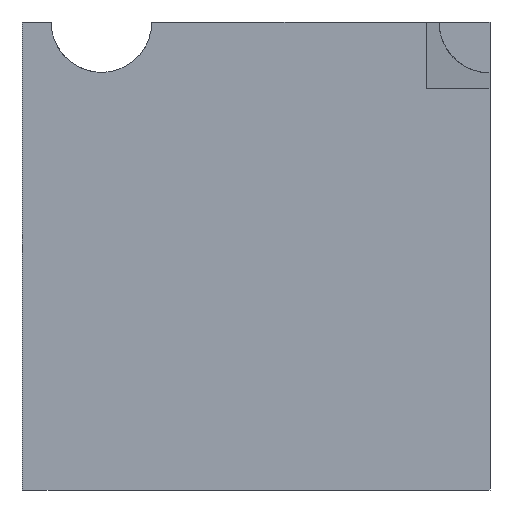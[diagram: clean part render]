
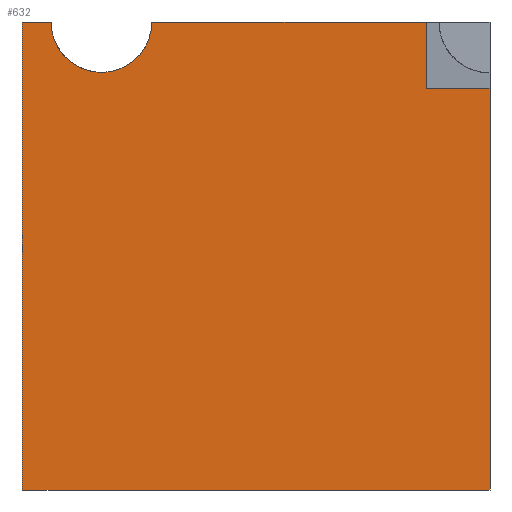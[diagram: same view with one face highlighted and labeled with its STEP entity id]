
A CAD part, front view. The second image highlights one B-rep face of the part: STEP entity #632.
In plain terms, the highlighted planar face has unit normal (0, -1, 0).
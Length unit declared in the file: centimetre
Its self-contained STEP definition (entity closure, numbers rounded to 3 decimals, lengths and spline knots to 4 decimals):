
#9 = CARTESIAN_POINT ( 'NONE',  ( 0., 0., 1000. ) ) ;
#23 = CIRCLE ( 'NONE', #227, 107.6685 ) ;
#25 = CARTESIAN_POINT ( 'NONE',  ( 863.5882, 0., 857.978 ) ) ;
#32 = EDGE_CURVE ( 'NONE', #599, #165, #503, .T. ) ;
#76 = VECTOR ( 'NONE', #106, 100. ) ;
#105 = LINE ( 'NONE', #25, #1091 ) ;
#106 = DIRECTION ( 'NONE',  ( 1., 0., 0. ) ) ;
#155 = VERTEX_POINT ( 'NONE', #523 ) ;
#160 = EDGE_CURVE ( 'NONE', #238, #885, #629, .T. ) ;
#165 = VERTEX_POINT ( 'NONE', #179 ) ;
#179 = CARTESIAN_POINT ( 'NONE',  ( 62.1235, 0., 1000. ) ) ;
#193 = CARTESIAN_POINT ( 'NONE',  ( 169.792, 0., 1000. ) ) ;
#217 = CARTESIAN_POINT ( 'NONE',  ( 169.792, 0., 1000. ) ) ;
#220 = VERTEX_POINT ( 'NONE', #261 ) ;
#227 = AXIS2_PLACEMENT_3D ( 'NONE', #217, #568, #1104 ) ;
#234 = EDGE_CURVE ( 'NONE', #816, #220, #983, .T. ) ;
#238 = VERTEX_POINT ( 'NONE', #734 ) ;
#243 = EDGE_CURVE ( 'NONE', #155, #824, #252, .T. ) ;
#252 = LINE ( 'NONE', #616, #76 ) ;
#261 = CARTESIAN_POINT ( 'NONE',  ( 277.4604, 0., 1000. ) ) ;
#271 = EDGE_CURVE ( 'NONE', #599, #155, #427, .T. ) ;
#350 = EDGE_LOOP ( 'NONE', ( #1094, #434, #822, #521, #548, #723, #697, #579, #920 ) ) ;
#394 = EDGE_CURVE ( 'NONE', #165, #816, #23, .T. ) ;
#397 = CARTESIAN_POINT ( 'NONE',  ( 0., 0., 1000. ) ) ;
#403 = CARTESIAN_POINT ( 'NONE',  ( 0., 0., 1000. ) ) ;
#427 = LINE ( 'NONE', #803, #583 ) ;
#434 = ORIENTED_EDGE ( 'NONE', *, *, #234, .F. ) ;
#487 = DIRECTION ( 'NONE',  ( 0., 0., -1. ) ) ;
#503 = LINE ( 'NONE', #403, #871 ) ;
#521 = ORIENTED_EDGE ( 'NONE', *, *, #32, .F. ) ;
#522 = DIRECTION ( 'NONE',  ( 0., 0., 1. ) ) ;
#523 = CARTESIAN_POINT ( 'NONE',  ( 0., 0., 0. ) ) ;
#548 = ORIENTED_EDGE ( 'NONE', *, *, #271, .T. ) ;
#549 = FACE_OUTER_BOUND ( 'NONE', #350, .T. ) ;
#550 = DIRECTION ( 'NONE',  ( 0., -1., 0. ) ) ;
#554 = EDGE_CURVE ( 'NONE', #220, #885, #883, .T. ) ;
#568 = DIRECTION ( 'NONE',  ( 0., -1., 0. ) ) ;
#579 = ORIENTED_EDGE ( 'NONE', *, *, #825, .F. ) ;
#583 = VECTOR ( 'NONE', #624, 100. ) ;
#599 = VERTEX_POINT ( 'NONE', #9 ) ;
#602 = LINE ( 'NONE', #966, #939 ) ;
#616 = CARTESIAN_POINT ( 'NONE',  ( 0., 0., 0. ) ) ;
#624 = DIRECTION ( 'NONE',  ( 0., 0., -1. ) ) ;
#629 = LINE ( 'NONE', #636, #1038 ) ;
#632 = ADVANCED_FACE ( 'NONE', ( #549 ), #806, .F. ) ;
#636 = CARTESIAN_POINT ( 'NONE',  ( 863.5882, 0., 857.978 ) ) ;
#643 = VECTOR ( 'NONE', #775, 100. ) ;
#697 = ORIENTED_EDGE ( 'NONE', *, *, #899, .F. ) ;
#722 = DIRECTION ( 'NONE',  ( 0., 0., 1. ) ) ;
#723 = ORIENTED_EDGE ( 'NONE', *, *, #243, .T. ) ;
#726 = DIRECTION ( 'NONE',  ( 0., 1., 0. ) ) ;
#734 = CARTESIAN_POINT ( 'NONE',  ( 863.5882, 0., 857.978 ) ) ;
#739 = DIRECTION ( 'NONE',  ( 1., 0., 0. ) ) ;
#773 = CARTESIAN_POINT ( 'NONE',  ( 1000., 0., 857.978 ) ) ;
#775 = DIRECTION ( 'NONE',  ( 1., 0., 0. ) ) ;
#777 = DIRECTION ( 'NONE',  ( 1., 0., 0. ) ) ;
#779 = CARTESIAN_POINT ( 'NONE',  ( 863.5882, 0., 1000. ) ) ;
#803 = CARTESIAN_POINT ( 'NONE',  ( 0., 0., 1000. ) ) ;
#806 = PLANE ( 'NONE',  #1016 ) ;
#816 = VERTEX_POINT ( 'NONE', #942 ) ;
#822 = ORIENTED_EDGE ( 'NONE', *, *, #394, .F. ) ;
#824 = VERTEX_POINT ( 'NONE', #1033 ) ;
#825 = EDGE_CURVE ( 'NONE', #238, #848, #105, .T. ) ;
#848 = VERTEX_POINT ( 'NONE', #773 ) ;
#871 = VECTOR ( 'NONE', #777, 100. ) ;
#883 = LINE ( 'NONE', #397, #643 ) ;
#885 = VERTEX_POINT ( 'NONE', #779 ) ;
#899 = EDGE_CURVE ( 'NONE', #848, #824, #602, .T. ) ;
#918 = DIRECTION ( 'NONE',  ( 0., 0., -1. ) ) ;
#920 = ORIENTED_EDGE ( 'NONE', *, *, #160, .T. ) ;
#939 = VECTOR ( 'NONE', #487, 100. ) ;
#942 = CARTESIAN_POINT ( 'NONE',  ( 169.792, 0., 892.3315 ) ) ;
#966 = CARTESIAN_POINT ( 'NONE',  ( 1000., 0., 1000. ) ) ;
#983 = CIRCLE ( 'NONE', #1092, 107.6685 ) ;
#1016 = AXIS2_PLACEMENT_3D ( 'NONE', #1075, #726, #522 ) ;
#1033 = CARTESIAN_POINT ( 'NONE',  ( 1000., 0., 0. ) ) ;
#1038 = VECTOR ( 'NONE', #722, 100. ) ;
#1075 = CARTESIAN_POINT ( 'NONE',  ( 0., 0., 1000. ) ) ;
#1091 = VECTOR ( 'NONE', #739, 100. ) ;
#1092 = AXIS2_PLACEMENT_3D ( 'NONE', #193, #550, #918 ) ;
#1094 = ORIENTED_EDGE ( 'NONE', *, *, #554, .F. ) ;
#1104 = DIRECTION ( 'NONE',  ( 0., 0., -1. ) ) ;
